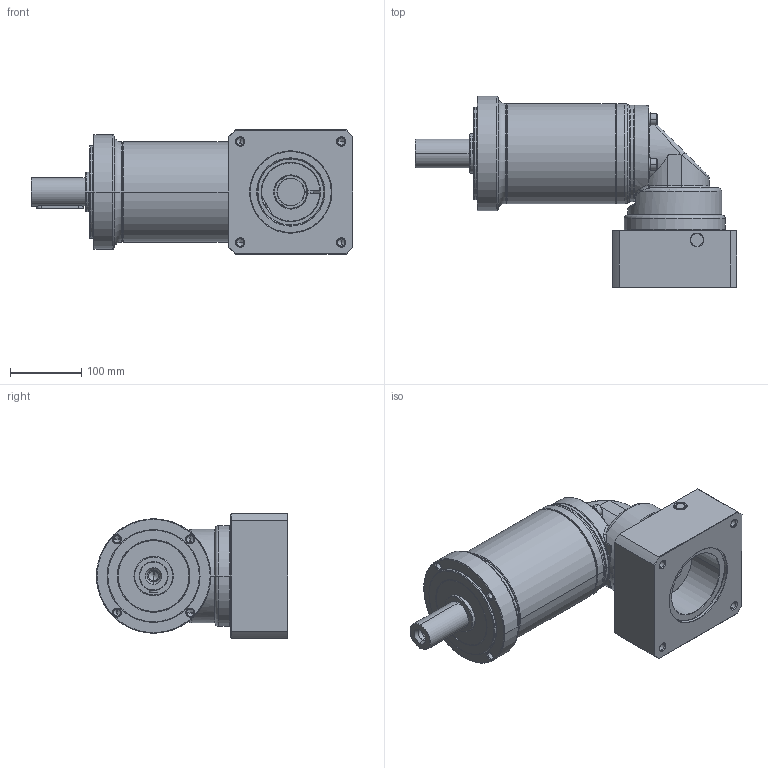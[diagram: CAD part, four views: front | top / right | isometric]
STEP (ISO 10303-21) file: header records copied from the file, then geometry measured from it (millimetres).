
FILE_DESCRIPTION((''),'2;1');
FILE_NAME('PG2R-160_3ST_38-P0411900101_ASM','2016-04-28T',('d01943'),(''),'PRO/ENGINEER BY PARAMETRIC TECHNOLOGY CORPORATION, 2008410','PRO/ENGINEER BY PARAMETRIC TECHNOLOGY CORPORATION, 2008410','');
FILE_SCHEMA(('CONFIG_CONTROL_DESIGN'));
Length unit declared in the file: millimetre
Products named in the file (12): P1325510001; P0273500001; P0350501103; P1349500001; P1017500001; P0713505001; P0503900010; P1350500501; P0411900101; P1702600001; 2111BA10040; PG2R-160_3ST_38-P0411900101_ASM
Assembly tree (14 placements, depth 2):
  PG2R-160_3ST_38-P0411900101_ASM
    P1325510001
    P0273500001
    P0350501103
    P1349500001
    P1017500001
    P0713505001
    P0503900010
    P1350500501
    P0411900101
    P1702600001
    2111BA10040  x4
Bounding box: 450.5 x 267.5 x 174 mm (x, y, z)
Volume: 4873955 mm3; surface area: 640969.7 mm2
Topology: 14 solids, 15 shells, 716 faces, 1573 edges, 912 vertices
Faces by surface type: cylinder 221, cone 200, plane 157, torus 106, bspline 32
Entity records: 22872 total; most frequent: CARTESIAN_POINT 9040, DIRECTION 3075, ORIENTED_EDGE 2670, EDGE_CURVE 1335, AXIS2_PLACEMENT_3D 1302, VERTEX_POINT 792, EDGE_LOOP 695, CIRCLE 691
